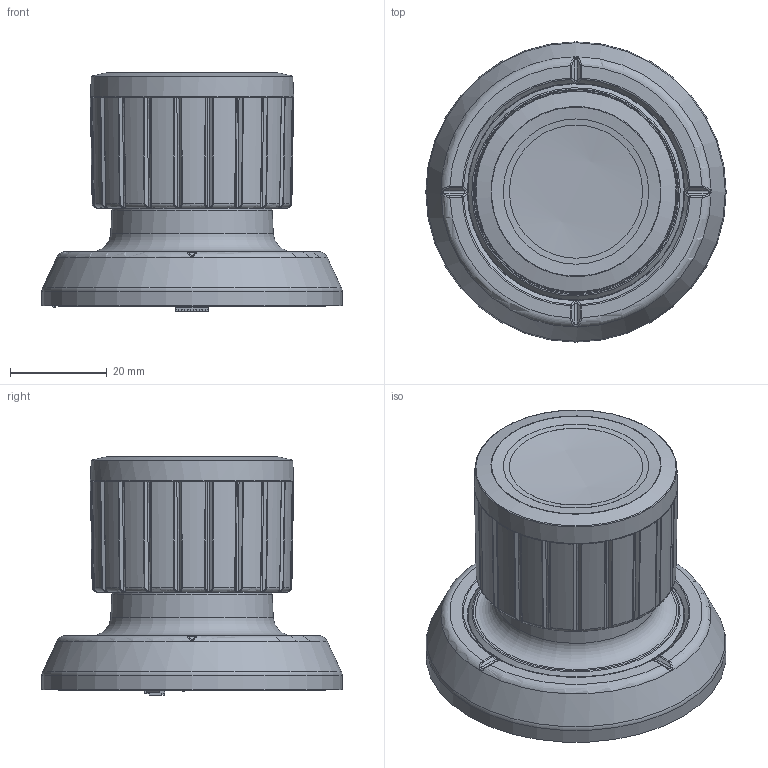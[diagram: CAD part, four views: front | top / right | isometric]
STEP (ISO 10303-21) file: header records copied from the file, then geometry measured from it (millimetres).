
FILE_DESCRIPTION(/* description */ (''),/* implementation_level */ '2;1');
FILE_NAME(/* name */ '\\DATA01\Daten\Entwicklung\01_CAD-Daten\01_AIDATA-GT\1_1_Joysticks\SK225\Zusammenstellungen\225-013.stp',/* time_stamp */ '2021-02-09T13:15:09+01:00',/* author */ ('dr'),/* organization */ (''),/* preprocessor_version */ 'ST-DEVELOPER v16.5',/* originating_system */ 'Autodesk Inventor 2017',/* authorisation */ '');
FILE_SCHEMA (('CONFIG_CONTROL_DESIGN'));
Length unit declared in the file: millimetre
Products named in the file (1): 225-013_vereinfacht
Bounding box: 62 x 62 x 49.34 mm (x, y, z)
Volume: 73120.2 mm3; surface area: 21084.6 mm2
Topology: 5 solids, 37 shells, 1718 faces, 4599 edges, 2931 vertices
Faces by surface type: plane 984, cylinder 247, cone 190, bspline 172, sphere 84, torus 41
Full cylindrical faces by diameter (mm): 0.4 x1, 0.55 x10, 0.7 x20, 2.4 x4, 2.5 x2, 3 x3, 3.1 x4, 3.2 x3, 5.6 x3, 23 x1, 25 x1, 27.5 x1, 28.6 x1, 30 x1, 30.6 x1, 39.352 x1, 39.6 x1, 44.8 x1, 44.9 x1, 46.5 x4, 47.3 x4, 60.2 x1, 62 x1
Entity records: 55696 total; most frequent: CARTESIAN_POINT 15188, ORIENTED_EDGE 8514, DIRECTION 8028, EDGE_CURVE 4247, VERTEX_POINT 2770, LINE 2738, VECTOR 2738, AXIS2_PLACEMENT_3D 2645
